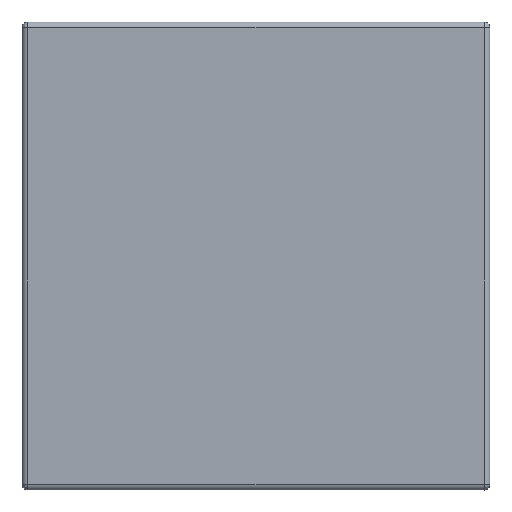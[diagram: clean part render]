
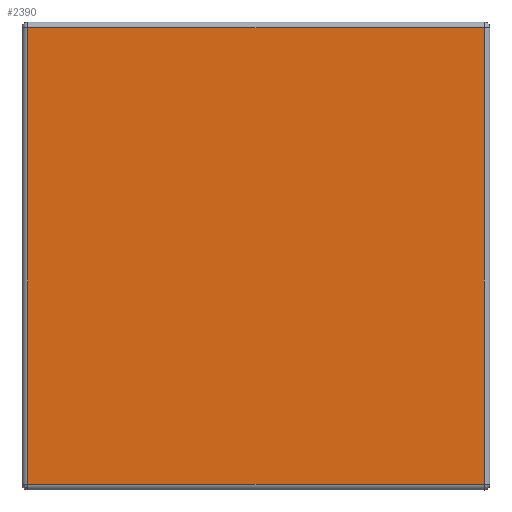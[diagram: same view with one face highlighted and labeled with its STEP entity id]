
A CAD part, top view. The second image highlights one B-rep face of the part: STEP entity #2390.
In plain terms, the highlighted planar face has unit normal (0, 0, 1).
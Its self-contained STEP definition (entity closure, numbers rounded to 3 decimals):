
#49 = VECTOR ( 'NONE', #5730, 1000. ) ;
#94 = DIRECTION ( 'NONE',  ( 0., 1., 0. ) ) ;
#198 = DIRECTION ( 'NONE',  ( 1., 0., 0. ) ) ;
#427 = CARTESIAN_POINT ( 'NONE',  ( 79., 79., 2. ) ) ;
#495 = DIRECTION ( 'NONE',  ( 1., 0., 0. ) ) ;
#1018 = LINE ( 'NONE', #2970, #5152 ) ;
#1226 = ORIENTED_EDGE ( 'NONE', *, *, #4171, .T. ) ;
#1265 = DIRECTION ( 'NONE',  ( 0., 0., 1. ) ) ;
#1336 = CARTESIAN_POINT ( 'NONE',  ( 79., 0., 2. ) ) ;
#1411 = DIRECTION ( 'NONE',  ( -1., 0., 0. ) ) ;
#1429 = VERTEX_POINT ( 'NONE', #3119 ) ;
#1543 = CARTESIAN_POINT ( 'NONE',  ( 79., 79., 2. ) ) ;
#1796 = EDGE_LOOP ( 'NONE', ( #2037, #3398, #3233, #1226 ) ) ;
#1958 = VECTOR ( 'NONE', #1411, 1000. ) ;
#2037 = ORIENTED_EDGE ( 'NONE', *, *, #4589, .T. ) ;
#2186 = EDGE_CURVE ( 'NONE', #1429, #3128, #1018, .T. ) ;
#2388 = VERTEX_POINT ( 'NONE', #3872 ) ;
#2390 = ADVANCED_FACE ( 'NONE', ( #5877 ), #3809, .T. ) ;
#2612 = CARTESIAN_POINT ( 'NONE',  ( 79., 0., 2. ) ) ;
#2770 = VECTOR ( 'NONE', #94, 1000. ) ;
#2970 = CARTESIAN_POINT ( 'NONE',  ( 79., 1., 2. ) ) ;
#3119 = CARTESIAN_POINT ( 'NONE',  ( 1., 1., 2. ) ) ;
#3128 = VERTEX_POINT ( 'NONE', #6276 ) ;
#3197 = LINE ( 'NONE', #2612, #2770 ) ;
#3233 = ORIENTED_EDGE ( 'NONE', *, *, #2186, .T. ) ;
#3398 = ORIENTED_EDGE ( 'NONE', *, *, #5522, .T. ) ;
#3809 = PLANE ( 'NONE',  #4210 ) ;
#3872 = CARTESIAN_POINT ( 'NONE',  ( 1., 79., 2. ) ) ;
#4171 = EDGE_CURVE ( 'NONE', #3128, #5948, #3197, .T. ) ;
#4210 = AXIS2_PLACEMENT_3D ( 'NONE', #1336, #1265, #198 ) ;
#4231 = LINE ( 'NONE', #4629, #49 ) ;
#4589 = EDGE_CURVE ( 'NONE', #5948, #2388, #5007, .T. ) ;
#4629 = CARTESIAN_POINT ( 'NONE',  ( 1., 0., 2. ) ) ;
#5007 = LINE ( 'NONE', #427, #1958 ) ;
#5152 = VECTOR ( 'NONE', #495, 1000. ) ;
#5522 = EDGE_CURVE ( 'NONE', #2388, #1429, #4231, .T. ) ;
#5730 = DIRECTION ( 'NONE',  ( 0., -1., 0. ) ) ;
#5877 = FACE_OUTER_BOUND ( 'NONE', #1796, .T. ) ;
#5948 = VERTEX_POINT ( 'NONE', #1543 ) ;
#6276 = CARTESIAN_POINT ( 'NONE',  ( 79., 1., 2. ) ) ;
